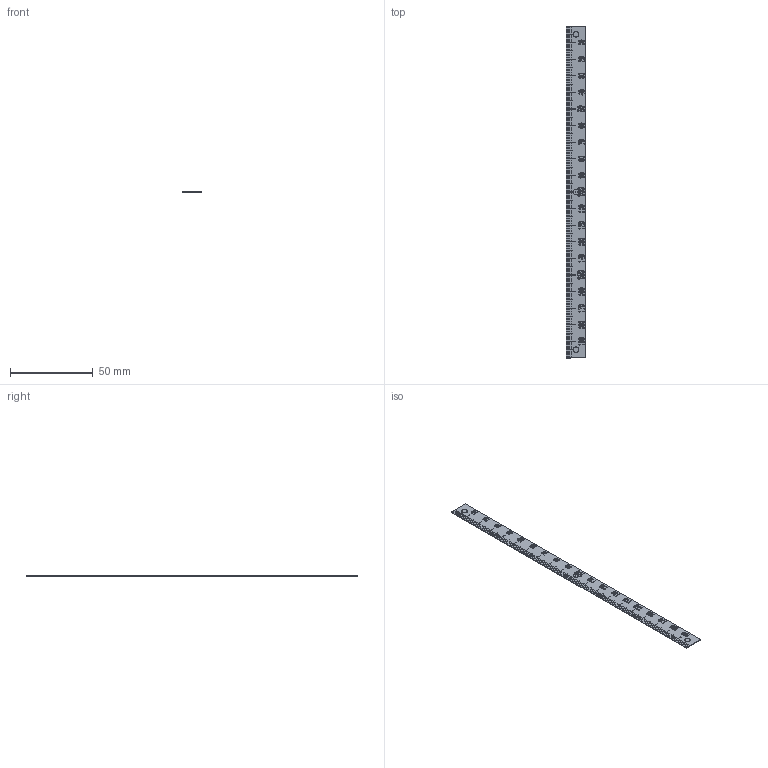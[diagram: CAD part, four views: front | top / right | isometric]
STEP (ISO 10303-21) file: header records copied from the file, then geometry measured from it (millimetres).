
FILE_DESCRIPTION (( 'STEP AP203' ), '1' );
FILE_NAME ('es1n-u200l.STEP', '2023-06-15T07:03:34', ( '' ), ( '' ), 'SwSTEP 2.0', 'SolidWorks 2021', '' );
FILE_SCHEMA (( 'CONFIG_CONTROL_DESIGN' ));
Products named in the file (1): es1n-u200l
Bounding box: 12 x 200 x 0.5 mm (x, y, z)
Volume: 1198.4 mm3; surface area: 5031.9 mm2
Topology: 1 solids, 1 shells, 1651 faces, 4698 edges, 3132 vertices
Faces by surface type: plane 1043, bspline 592, cylinder 16
Entity records: 75929 total; most frequent: CARTESIAN_POINT 36914, ORIENTED_EDGE 9396, DIRECTION 5666, EDGE_CURVE 4698, VECTOR 3482, LINE 3482, VERTEX_POINT 3132, EDGE_LOOP 1734
